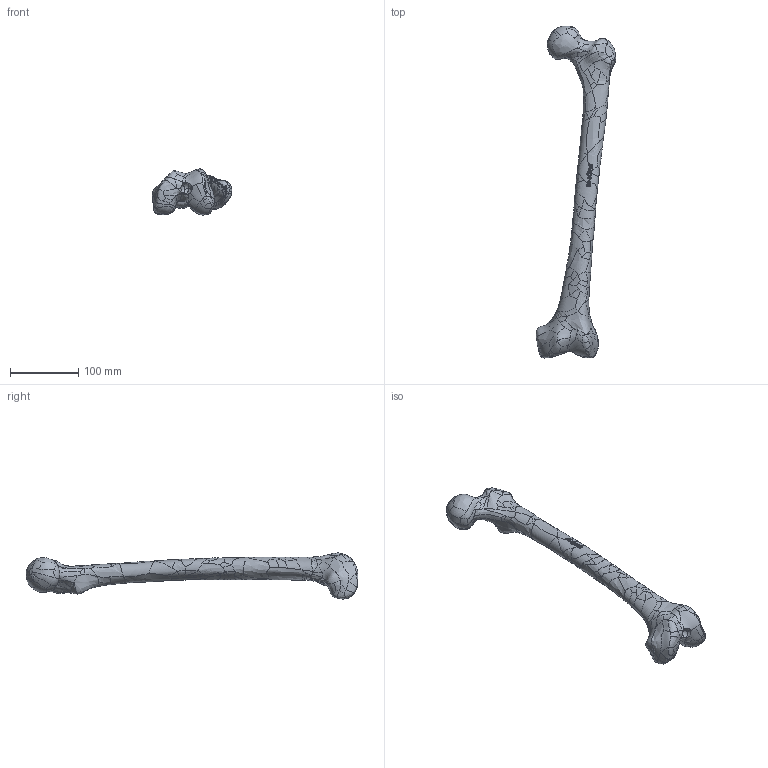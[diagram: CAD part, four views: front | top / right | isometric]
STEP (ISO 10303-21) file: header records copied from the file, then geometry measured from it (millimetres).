
FILE_DESCRIPTION (( 'STEP AP203' ), '1' );
FILE_NAME ('3406.STEP', '2025-06-10T19:01:08', ( '' ), ( '' ), 'SwSTEP 2.0', 'SolidWorks 2024', '' );
FILE_SCHEMA (( 'CONFIG_CONTROL_DESIGN' ));
Products named in the file (1): 3406
Bounding box: 117.12 x 487.49 x 67.75 mm (x, y, z)
Volume: 647346.1 mm3; surface area: 72211.9 mm2
Topology: 1 solids, 1 shells, 563 faces, 1456 edges, 904 vertices
Faces by surface type: bspline 559, plane 4
Entity records: 964639 total; most frequent: CARTESIAN_POINT 955545, ORIENTED_EDGE 2912, EDGE_CURVE 1456, B_SPLINE_CURVE_WITH_KNOTS 1456, VERTEX_POINT 904, EDGE_LOOP 572, ADVANCED_FACE 563, FACE_OUTER_BOUND 563
